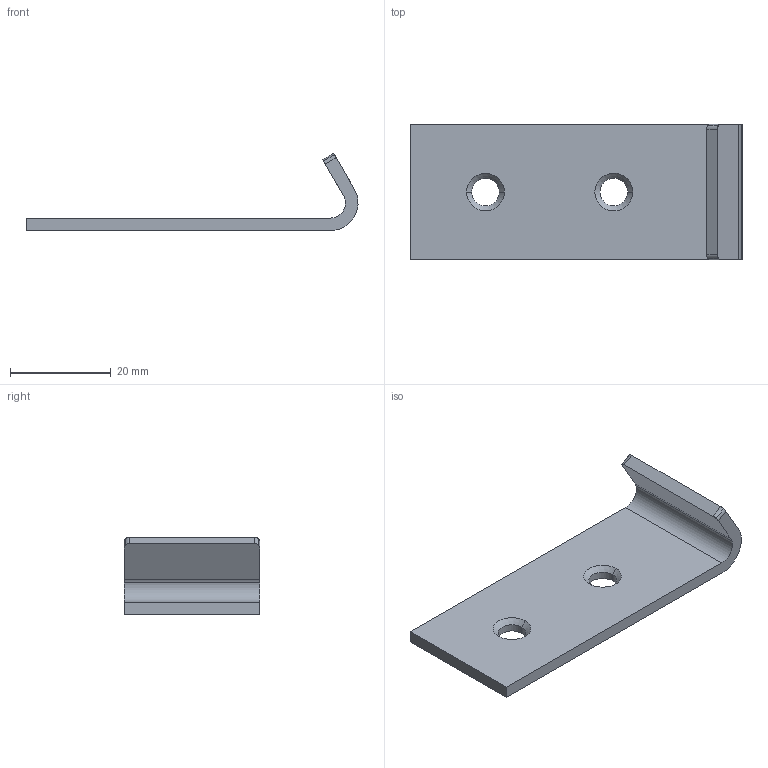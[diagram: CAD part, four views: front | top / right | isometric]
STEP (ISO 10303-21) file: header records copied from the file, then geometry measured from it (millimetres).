
FILE_DESCRIPTION((''),'2;1');
FILE_NAME('1001.__-5.stp','2012-05-02T15:37:53',(''),(''),'Mechanical Desktop 2006','Mechanical Desktop 2006',', , ');
FILE_SCHEMA(('CONFIG_CONTROL_DESIGN'));
Length unit declared in the file: millimetre
Products named in the file (2): 1001.__-5; GEGENHAKEN1
Assembly tree (1 placements, depth 2):
  1001.__-5
    GEGENHAKEN1
Bounding box: 65.99 x 27 x 15.37 mm (x, y, z)
Volume: 5100 mm3; surface area: 4685.2 mm2
Topology: 1 solids, 1 shells, 24 faces, 62 edges, 40 vertices
Faces by surface type: cylinder 12, plane 8, cone 4
Entity records: 859 total; most frequent: DIRECTION 142, CARTESIAN_POINT 128, ORIENTED_EDGE 124, EDGE_CURVE 62, AXIS2_PLACEMENT_3D 54, VERTEX_POINT 40, VECTOR 34, LINE 34
